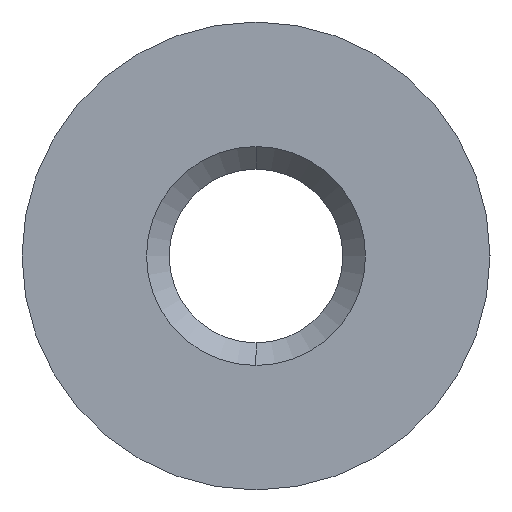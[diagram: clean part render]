
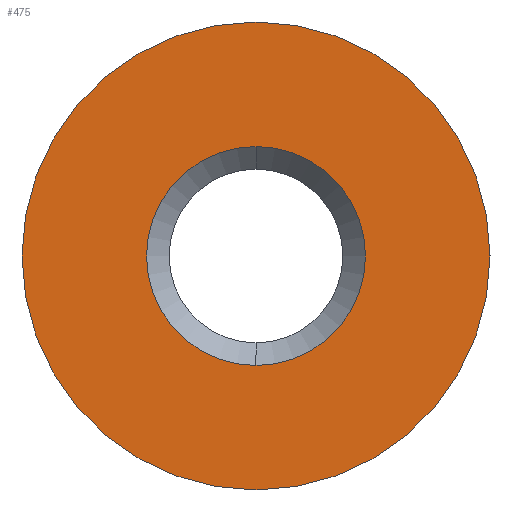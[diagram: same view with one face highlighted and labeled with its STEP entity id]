
A CAD part, left-side view. The second image highlights one B-rep face of the part: STEP entity #475.
In plain terms, the highlighted planar face has unit normal (-1, 0, 0).
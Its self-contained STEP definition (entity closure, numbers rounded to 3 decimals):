
#22 = ORIENTED_EDGE ( 'NONE', *, *, #49, .F. ) ;
#39 = EDGE_CURVE ( 'NONE', #50, #47, #447, .T. ) ;
#47 = VERTEX_POINT ( 'NONE', #289 ) ;
#49 = EDGE_CURVE ( 'NONE', #47, #50, #288, .T. ) ;
#50 = VERTEX_POINT ( 'NONE', #283 ) ;
#95 = EDGE_CURVE ( 'NONE', #96, #213, #742, .T. ) ;
#96 = VERTEX_POINT ( 'NONE', #737 ) ;
#213 = VERTEX_POINT ( 'NONE', #967 ) ;
#283 = CARTESIAN_POINT ( 'NONE',  ( 0., 0., 3.1 ) ) ;
#284 = DIRECTION ( 'NONE',  ( 0., 0., -1. ) ) ;
#285 = DIRECTION ( 'NONE',  ( 1., 0., 0. ) ) ;
#286 = CARTESIAN_POINT ( 'NONE',  ( 0., 0., 0. ) ) ;
#287 = AXIS2_PLACEMENT_3D ( 'NONE', #286, #285, #284 ) ;
#288 = CIRCLE ( 'NONE', #287, 3.1 ) ;
#289 = CARTESIAN_POINT ( 'NONE',  ( 0., 0., -3.1 ) ) ;
#325 = EDGE_LOOP ( 'NONE', ( #326, #327 ) ) ;
#326 = ORIENTED_EDGE ( 'NONE', *, *, #95, .T. ) ;
#327 = ORIENTED_EDGE ( 'NONE', *, *, #328, .T. ) ;
#328 = EDGE_CURVE ( 'NONE', #213, #96, #884, .T. ) ;
#329 = EDGE_LOOP ( 'NONE', ( #330, #22 ) ) ;
#330 = ORIENTED_EDGE ( 'NONE', *, *, #39, .F. ) ;
#443 = DIRECTION ( 'NONE',  ( 0., 0., -1. ) ) ;
#444 = DIRECTION ( 'NONE',  ( 1., 0., 0. ) ) ;
#445 = CARTESIAN_POINT ( 'NONE',  ( 0., 0., 0. ) ) ;
#446 = AXIS2_PLACEMENT_3D ( 'NONE', #445, #444, #443 ) ;
#447 = CIRCLE ( 'NONE', #446, 3.1 ) ;
#475 = ADVANCED_FACE ( 'NONE', ( #1010, #1009 ), #1008, .F. ) ;
#737 = CARTESIAN_POINT ( 'NONE',  ( 0., 0., 1.45 ) ) ;
#738 = DIRECTION ( 'NONE',  ( 0., 0., -1. ) ) ;
#739 = DIRECTION ( 'NONE',  ( 1., 0., 0. ) ) ;
#740 = CARTESIAN_POINT ( 'NONE',  ( 0., 0., 0. ) ) ;
#741 = AXIS2_PLACEMENT_3D ( 'NONE', #740, #739, #738 ) ;
#742 = CIRCLE ( 'NONE', #741, 1.45 ) ;
#880 = DIRECTION ( 'NONE',  ( 0., 0., -1. ) ) ;
#881 = DIRECTION ( 'NONE',  ( 1., 0., 0. ) ) ;
#882 = CARTESIAN_POINT ( 'NONE',  ( 0., 0., 0. ) ) ;
#883 = AXIS2_PLACEMENT_3D ( 'NONE', #882, #881, #880 ) ;
#884 = CIRCLE ( 'NONE', #883, 1.45 ) ;
#967 = CARTESIAN_POINT ( 'NONE',  ( 0., 0., -1.45 ) ) ;
#1004 = DIRECTION ( 'NONE',  ( 0., 0., -1. ) ) ;
#1005 = DIRECTION ( 'NONE',  ( 1., 0., 0. ) ) ;
#1006 = AXIS2_PLACEMENT_3D ( 'NONE', #1007, #1005, #1004 ) ;
#1007 = CARTESIAN_POINT ( 'NONE',  ( 0., 0., 0. ) ) ;
#1008 = PLANE ( 'NONE',  #1006 ) ;
#1009 = FACE_OUTER_BOUND ( 'NONE', #329, .T. ) ;
#1010 = FACE_BOUND ( 'NONE', #325, .T. ) ;
